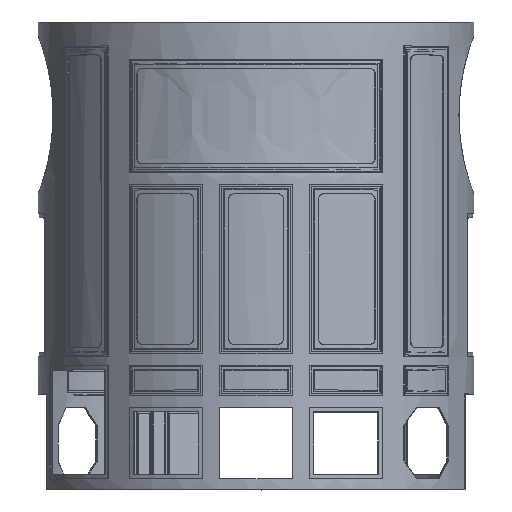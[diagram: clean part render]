
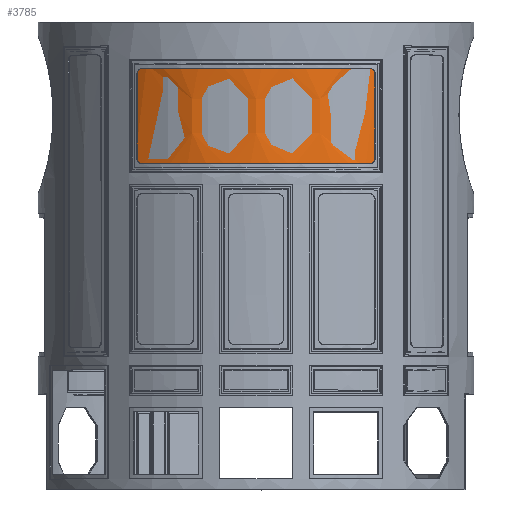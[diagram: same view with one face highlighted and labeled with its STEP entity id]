
A CAD part, top view. The second image highlights one B-rep face of the part: STEP entity #3785.
In plain terms, the highlighted free-form (B-spline) face has degree [3, 3] with [7, 4] control points.
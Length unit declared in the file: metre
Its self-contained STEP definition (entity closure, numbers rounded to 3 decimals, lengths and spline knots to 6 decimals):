
#3785=ADVANCED_FACE('',(#5146),#5147,.T.);
#5146=FACE_OUTER_BOUND('',#23456,.T.);
#5147=B_SPLINE_SURFACE_WITH_KNOTS('',3,3,((#23457,#23458,#23459,#23460),(#23461,#23462,#23463,#23464),(#23465,#23466,#23467,#23468),(#23469,#23470,#23471,#23472),(#23473,#23474,#23475,#23476),(#23477,#23478,#23479,#23480),(#23481,#23482,#23483,#23484)),.UNSPECIFIED.,.F.,.F.,.F.,(4,1,1,1,4),(4,4),(-12.5,-9.78125,-7.0625,-4.34375,-1.625),(8.5,12.8125),.UNSPECIFIED.);
#23456=EDGE_LOOP('',(#30282,#30283,#30284,#30285));
#23457=CARTESIAN_POINT('',(0.0,0.043213,0.0));
#23458=CARTESIAN_POINT('',(0.0,0.043213,0.036513));
#23459=CARTESIAN_POINT('',(0.0,0.043213,0.073025));
#23460=CARTESIAN_POINT('',(0.0,0.043213,0.109538));
#23461=CARTESIAN_POINT('',(0.018964,0.030344,0.0));
#23462=CARTESIAN_POINT('',(0.018964,0.030344,0.036513));
#23463=CARTESIAN_POINT('',(0.018964,0.030344,0.073025));
#23464=CARTESIAN_POINT('',(0.018964,0.030344,0.109538));
#23465=CARTESIAN_POINT('',(0.060763,0.010324,0.0));
#23466=CARTESIAN_POINT('',(0.060763,0.010324,0.036513));
#23467=CARTESIAN_POINT('',(0.060763,0.010324,0.073025));
#23468=CARTESIAN_POINT('',(0.060763,0.010324,0.109538));
#23469=CARTESIAN_POINT('',(0.129513,0.0,0.0));
#23470=CARTESIAN_POINT('',(0.129513,0.0,0.036513));
#23471=CARTESIAN_POINT('',(0.129513,0.,0.073025));
#23472=CARTESIAN_POINT('',(0.129513,0.0,0.109538));
#23473=CARTESIAN_POINT('',(0.198261,0.010323,0.0));
#23474=CARTESIAN_POINT('',(0.198261,0.010323,0.036513));
#23475=CARTESIAN_POINT('',(0.198261,0.010323,0.073025));
#23476=CARTESIAN_POINT('',(0.198261,0.010323,0.109538));
#23477=CARTESIAN_POINT('',(0.240061,0.030344,0.0));
#23478=CARTESIAN_POINT('',(0.240061,0.030344,0.036513));
#23479=CARTESIAN_POINT('',(0.240061,0.030344,0.073025));
#23480=CARTESIAN_POINT('',(0.240061,0.030344,0.109538));
#23481=CARTESIAN_POINT('',(0.259025,0.043212,0.0));
#23482=CARTESIAN_POINT('',(0.259025,0.043212,0.036513));
#23483=CARTESIAN_POINT('',(0.259025,0.043212,0.073025));
#23484=CARTESIAN_POINT('',(0.259025,0.043212,0.109538));
#30282=ORIENTED_EDGE('',*,*,#34791,.T.);
#30283=ORIENTED_EDGE('',*,*,#34792,.T.);
#30284=ORIENTED_EDGE('',*,*,#34790,.T.);
#30285=ORIENTED_EDGE('',*,*,#34793,.T.);
#34790=EDGE_CURVE('',#37623,#37628,#37630,.T.);
#34791=EDGE_CURVE('',#37631,#37632,#37633,.T.);
#34792=EDGE_CURVE('',#37632,#37623,#37634,.T.);
#34793=EDGE_CURVE('',#37628,#37631,#37635,.T.);
#37623=VERTEX_POINT('',#55244);
#37628=VERTEX_POINT('',#55259);
#37630=B_SPLINE_CURVE_WITH_KNOTS('',3,(#55262,#55263,#55264,#55265,#55266,#55267,#55268),.UNSPECIFIED.,.F.,.F.,(4,1,1,1,4),(1.625,4.34375,7.0625,9.78125,12.5),.UNSPECIFIED.);
#37631=VERTEX_POINT('',#55269);
#37632=VERTEX_POINT('',#55270);
#37633=B_SPLINE_CURVE_WITH_KNOTS('',3,(#55271,#55272,#55273,#55274,#55275,#55276,#55277),.UNSPECIFIED.,.F.,.F.,(4,1,1,1,4),(-12.5,-9.78125,-7.0625,-4.34375,-1.625),.UNSPECIFIED.);
#37634=LINE('',#55278,#55279);
#37635=LINE('',#55280,#55281);
#55244=CARTESIAN_POINT('',(0.259025,0.043212,0.109538));
#55259=CARTESIAN_POINT('',(0.0,0.043213,0.109538));
#55262=CARTESIAN_POINT('',(0.259025,0.043212,0.109538));
#55263=CARTESIAN_POINT('',(0.240061,0.030344,0.109538));
#55264=CARTESIAN_POINT('',(0.198261,0.010323,0.109538));
#55265=CARTESIAN_POINT('',(0.129513,0.0,0.109538));
#55266=CARTESIAN_POINT('',(0.060763,0.010324,0.109538));
#55267=CARTESIAN_POINT('',(0.018964,0.030344,0.109538));
#55268=CARTESIAN_POINT('',(0.0,0.043213,0.109538));
#55269=CARTESIAN_POINT('',(0.0,0.043213,0.0));
#55270=CARTESIAN_POINT('',(0.259025,0.043212,0.0));
#55271=CARTESIAN_POINT('',(0.0,0.043213,0.0));
#55272=CARTESIAN_POINT('',(0.018964,0.030344,0.0));
#55273=CARTESIAN_POINT('',(0.060763,0.010324,0.0));
#55274=CARTESIAN_POINT('',(0.129513,0.0,0.0));
#55275=CARTESIAN_POINT('',(0.198261,0.010323,0.0));
#55276=CARTESIAN_POINT('',(0.240061,0.030344,0.0));
#55277=CARTESIAN_POINT('',(0.259025,0.043212,0.0));
#55278=CARTESIAN_POINT('',(0.259025,0.043212,0.054769));
#55279=VECTOR('',#60884,1.0);
#55280=CARTESIAN_POINT('',(0.0,0.043213,0.054769));
#55281=VECTOR('',#60885,1.0);
#60884=DIRECTION('',(0.0,0.0,1.0));
#60885=DIRECTION('',(0.0,0.0,-1.0));
